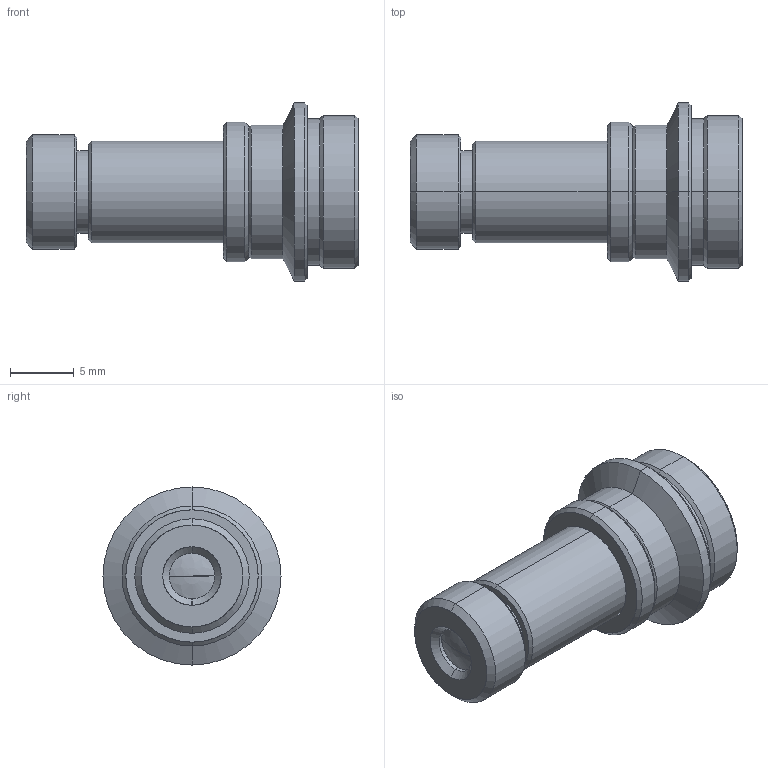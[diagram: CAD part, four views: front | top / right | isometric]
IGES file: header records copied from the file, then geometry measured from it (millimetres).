
Start section: SolidWorks IGES file using analytic representation for surfaces
Global section: file name: C:\Users\tsuji_vst\Documents\【作業フォルダ】\【3D】\00 VST\VS-MC\VS-MC0576N\VS-MC0576N.IGS; native system: SolidWorks 2018; preprocessor: SolidWorks 2018; author: tsuji_vst; date: 200409.112506; units: millimetre
Bounding box: 26.09 x 14 x 14 mm (x, y, z)
Surface area: 1442.9 mm2 (no closed solid volume)
Topology: 0 solids, 0 shells, 66 faces, 752 edges, 750 vertices
Faces by surface type: revolution 58, bspline 8
